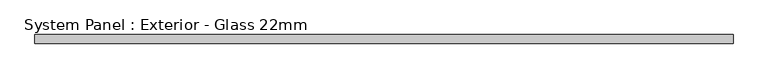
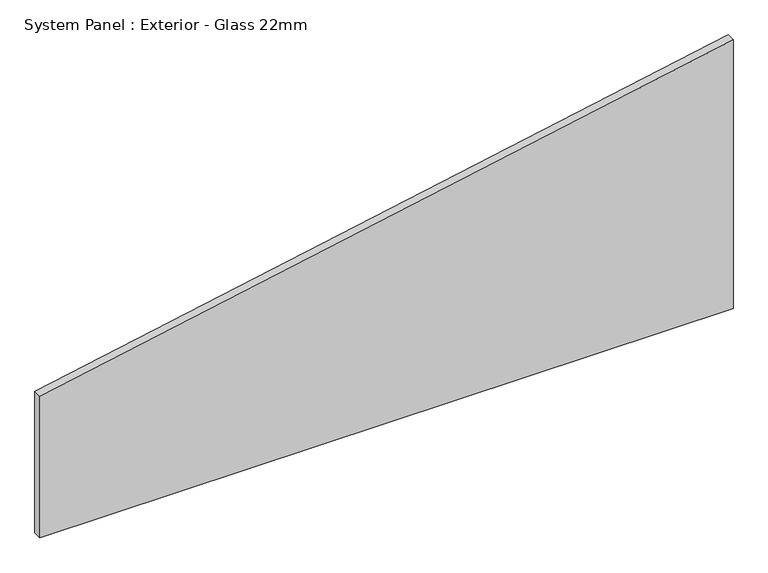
"""IFC4 building model written with IfcOpenShell, lengths in millimetres: plate geometry, System Panel : Exterior - Glass 22mm."""

from ifc_helpers import new_model, si_unit, frame, origin, place, context, project, spatial, polyline, outline, extrude, source, transform, mapped, element, save


def system_panel_exterior_glass_22mm_b5bca9db(model_context):
    return source(origin(), model_context, "Body", "SweptSolid", [
        extrude(outline(polyline([(0.0, -892.5), (0.0, 892.5), (731.5675217, 892.5), (384.5986699, -892.5), (0.0, -892.5)])), frame((0.0, -50.0, 0.0), z_axis=(0.0, 1.0, 0.0), x_axis=(0.0, 0.0, 1.0)), (0.0, 0.0, 1.0), 22.0),
    ])


if __name__ == "__main__":
    model = new_model("IFC4")
    model_context = context("Model", 3, world=origin())
    ifc_project = project(units=[si_unit("LENGTHUNIT", "METRE", prefix="MILLI")], contexts=[model_context])
    site = spatial("IfcSite", under=ifc_project)
    building = spatial("IfcBuilding", under=site)
    placement = place(None, origin())
    system_panel_exterior_glass_22mm_shape = system_panel_exterior_glass_22mm_b5bca9db(model_context)
    element("IfcPlate", 1, ObjectType="System Panel : Exterior - Glass 22mm", at=placement, inside=building, context=model_context, shape_type="MappedRepresentation", body=[
        mapped(system_panel_exterior_glass_22mm_shape, transform((0.0, 0.0, 0.0), x_axis=(1.0, 0.0, 0.0), y_axis=(0.0, 1.0, 0.0), z_axis=(0.0, 0.0, 1.0))),
    ])
    save(model, "model.ifc")
